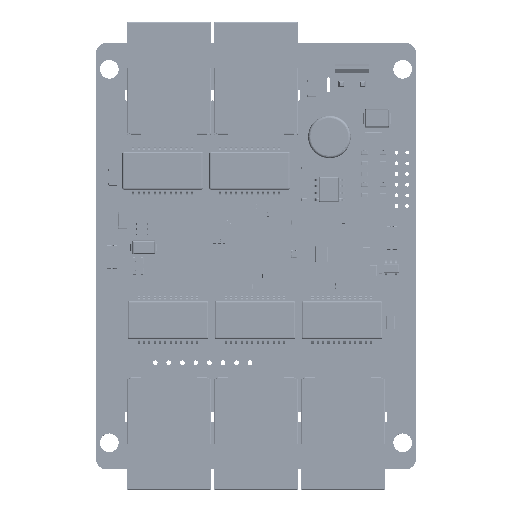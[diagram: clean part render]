
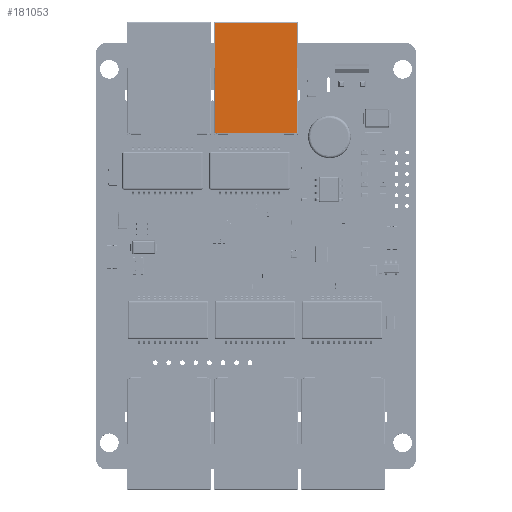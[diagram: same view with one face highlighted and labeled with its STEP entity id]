
A CAD part, top view. The second image highlights one B-rep face of the part: STEP entity #181053.
In plain terms, the highlighted planar face has unit normal (0, 0, 1).
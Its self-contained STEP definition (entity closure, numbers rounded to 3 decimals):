
#181025 = VERTEX_POINT('',#181026);
#181026 = CARTESIAN_POINT('',(-7.7,0.35,
    14.094));
#181035 = VERTEX_POINT('',#181036);
#181036 = CARTESIAN_POINT('',(7.7,0.35,
    14.094));
#181043 = EDGE_CURVE('',#181025,#181035,#181044,.T.);
#181044 = LINE('',#181045,#181046);
#181045 = CARTESIAN_POINT('',(-7.9,0.35,
    14.094));
#181046 = VECTOR('',#181047,1.);
#181047 = DIRECTION('',(1.,0.,0.));
#181053 = ADVANCED_FACE('',(#181054),#181159,.F.);
#181054 = FACE_BOUND('',#181055,.T.);
#181055 = EDGE_LOOP('',(#181056,#181064,#181072,#181080,#181088,#181096,
    #181104,#181112,#181120,#181128,#181136,#181144,#181152,#181158));
#181056 = ORIENTED_EDGE('',*,*,#181057,.T.);
#181057 = EDGE_CURVE('',#181035,#181058,#181060,.T.);
#181058 = VERTEX_POINT('',#181059);
#181059 = CARTESIAN_POINT('',(7.7,8.741,
    14.094));
#181060 = LINE('',#181061,#181062);
#181061 = CARTESIAN_POINT('',(7.7,0.35,
    14.094));
#181062 = VECTOR('',#181063,1.);
#181063 = DIRECTION('',(0.,1.,0.));
#181064 = ORIENTED_EDGE('',*,*,#181065,.T.);
#181065 = EDGE_CURVE('',#181058,#181066,#181068,.T.);
#181066 = VERTEX_POINT('',#181067);
#181067 = CARTESIAN_POINT('',(7.7,20.983,
    14.094));
#181068 = LINE('',#181069,#181070);
#181069 = CARTESIAN_POINT('',(7.7,20.983,
    14.094));
#181070 = VECTOR('',#181071,1.);
#181071 = DIRECTION('',(0.,1.,0.));
#181072 = ORIENTED_EDGE('',*,*,#181073,.F.);
#181073 = EDGE_CURVE('',#181074,#181066,#181076,.T.);
#181074 = VERTEX_POINT('',#181075);
#181075 = CARTESIAN_POINT('',(7.05,20.983,
    14.094));
#181076 = LINE('',#181077,#181078);
#181077 = CARTESIAN_POINT('',(7.7,20.983,
    14.094));
#181078 = VECTOR('',#181079,1.);
#181079 = DIRECTION('',(1.,0.,0.));
#181080 = ORIENTED_EDGE('',*,*,#181081,.T.);
#181081 = EDGE_CURVE('',#181074,#181082,#181084,.T.);
#181082 = VERTEX_POINT('',#181083);
#181083 = CARTESIAN_POINT('',(7.05,21.05,
    14.094));
#181084 = LINE('',#181085,#181086);
#181085 = CARTESIAN_POINT('',(7.05,21.25,
    14.094));
#181086 = VECTOR('',#181087,1.);
#181087 = DIRECTION('',(0.,1.,0.));
#181088 = ORIENTED_EDGE('',*,*,#181089,.T.);
#181089 = EDGE_CURVE('',#181082,#181090,#181092,.T.);
#181090 = VERTEX_POINT('',#181091);
#181091 = CARTESIAN_POINT('',(5.25,21.05,
    14.094));
#181092 = LINE('',#181093,#181094);
#181093 = CARTESIAN_POINT('',(-7.9,21.05,
    14.094));
#181094 = VECTOR('',#181095,1.);
#181095 = DIRECTION('',(-1.,0.,0.));
#181096 = ORIENTED_EDGE('',*,*,#181097,.T.);
#181097 = EDGE_CURVE('',#181090,#181098,#181100,.T.);
#181098 = VERTEX_POINT('',#181099);
#181099 = CARTESIAN_POINT('',(5.25,21.,
    14.094));
#181100 = LINE('',#181101,#181102);
#181101 = CARTESIAN_POINT('',(5.25,21.25,
    14.094));
#181102 = VECTOR('',#181103,1.);
#181103 = DIRECTION('',(0.,-1.,0.));
#181104 = ORIENTED_EDGE('',*,*,#181105,.F.);
#181105 = EDGE_CURVE('',#181106,#181098,#181108,.T.);
#181106 = VERTEX_POINT('',#181107);
#181107 = CARTESIAN_POINT('',(-5.25,21.,
    14.094));
#181108 = LINE('',#181109,#181110);
#181109 = CARTESIAN_POINT('',(-5.25,21.,
    14.094));
#181110 = VECTOR('',#181111,1.);
#181111 = DIRECTION('',(1.,0.,0.));
#181112 = ORIENTED_EDGE('',*,*,#181113,.F.);
#181113 = EDGE_CURVE('',#181114,#181106,#181116,.T.);
#181114 = VERTEX_POINT('',#181115);
#181115 = CARTESIAN_POINT('',(-5.25,21.05,
    14.094));
#181116 = LINE('',#181117,#181118);
#181117 = CARTESIAN_POINT('',(-5.25,21.25,
    14.094));
#181118 = VECTOR('',#181119,1.);
#181119 = DIRECTION('',(0.,-1.,0.));
#181120 = ORIENTED_EDGE('',*,*,#181121,.T.);
#181121 = EDGE_CURVE('',#181114,#181122,#181124,.T.);
#181122 = VERTEX_POINT('',#181123);
#181123 = CARTESIAN_POINT('',(-7.05,21.05,
    14.094));
#181124 = LINE('',#181125,#181126);
#181125 = CARTESIAN_POINT('',(-7.9,21.05,
    14.094));
#181126 = VECTOR('',#181127,1.);
#181127 = DIRECTION('',(-1.,0.,0.));
#181128 = ORIENTED_EDGE('',*,*,#181129,.T.);
#181129 = EDGE_CURVE('',#181122,#181130,#181132,.T.);
#181130 = VERTEX_POINT('',#181131);
#181131 = CARTESIAN_POINT('',(-7.05,20.983,
    14.094));
#181132 = LINE('',#181133,#181134);
#181133 = CARTESIAN_POINT('',(-7.05,21.25,
    14.094));
#181134 = VECTOR('',#181135,1.);
#181135 = DIRECTION('',(0.,-1.,0.));
#181136 = ORIENTED_EDGE('',*,*,#181137,.F.);
#181137 = EDGE_CURVE('',#181138,#181130,#181140,.T.);
#181138 = VERTEX_POINT('',#181139);
#181139 = CARTESIAN_POINT('',(-7.7,20.983,
    14.094));
#181140 = LINE('',#181141,#181142);
#181141 = CARTESIAN_POINT('',(-7.7,20.983,
    14.094));
#181142 = VECTOR('',#181143,1.);
#181143 = DIRECTION('',(1.,0.,0.));
#181144 = ORIENTED_EDGE('',*,*,#181145,.T.);
#181145 = EDGE_CURVE('',#181138,#181146,#181148,.T.);
#181146 = VERTEX_POINT('',#181147);
#181147 = CARTESIAN_POINT('',(-7.7,8.741,
    14.094));
#181148 = LINE('',#181149,#181150);
#181149 = CARTESIAN_POINT('',(-7.7,8.741,
    14.094));
#181150 = VECTOR('',#181151,1.);
#181151 = DIRECTION('',(0.,-1.,0.));
#181152 = ORIENTED_EDGE('',*,*,#181153,.T.);
#181153 = EDGE_CURVE('',#181146,#181025,#181154,.T.);
#181154 = LINE('',#181155,#181156);
#181155 = CARTESIAN_POINT('',(-7.7,21.25,
    14.094));
#181156 = VECTOR('',#181157,1.);
#181157 = DIRECTION('',(0.,-1.,0.));
#181158 = ORIENTED_EDGE('',*,*,#181043,.T.);
#181159 = PLANE('',#181160);
#181160 = AXIS2_PLACEMENT_3D('',#181161,#181162,#181163);
#181161 = CARTESIAN_POINT('',(-7.9,0.35,
    14.094));
#181162 = DIRECTION('',(-0.,0.,-1.));
#181163 = DIRECTION('',(1.,0.,0.));
